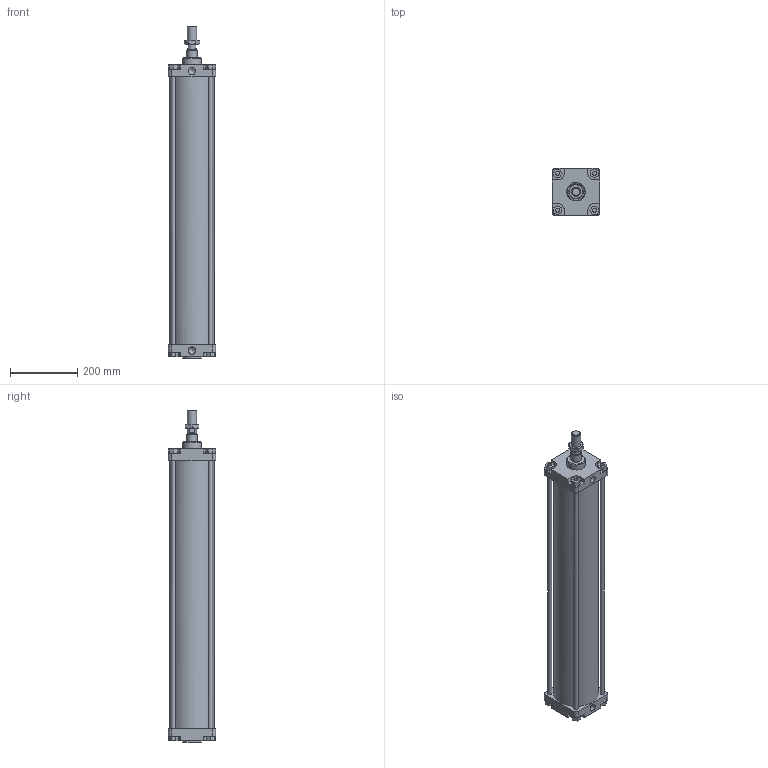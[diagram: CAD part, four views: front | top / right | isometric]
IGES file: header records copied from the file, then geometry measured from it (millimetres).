
Global section: file name: 1305_125_0700_01A; native system: Autodesk Inventor 2014; preprocessor: unknown; author: A. Manieri; date: 20161124.143357; units: millimetre
Bounding box: 140 x 140 x 986 mm (x, y, z)
Volume: 4736478.8 mm3; surface area: 1061833.1 mm2
Topology: 9 solids, 9 shells, 175 faces, 440 edges, 295 vertices
Faces by surface type: bspline 175
